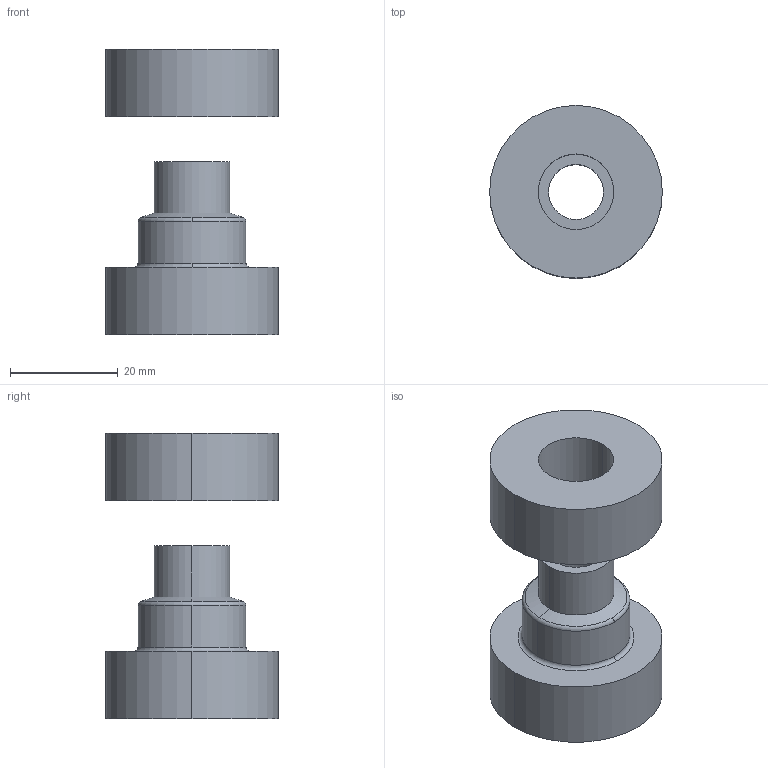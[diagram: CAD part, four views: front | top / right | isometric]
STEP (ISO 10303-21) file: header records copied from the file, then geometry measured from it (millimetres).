
FILE_DESCRIPTION(('STEP AP214'),'1');
FILE_NAME('C:/Transfer Dokumente/UMount_6001x_160226.stp','2026-02-16T11:53:52',(' '),(' '),'Spatial InterOp 3D',' ',' ');
FILE_SCHEMA(('automotive_design'));
Length unit declared in the file: millimetre
Products named in the file (2): 1; 2
Bounding box: 32 x 32 x 52.83 mm (x, y, z)
Volume: 20090.7 mm3; surface area: 7796.9 mm2
Topology: 2 solids, 2 shells, 23 faces, 53 edges, 35 vertices
Faces by surface type: cylinder 12, plane 5, torus 4, cone 2
Entity records: 716 total; most frequent: DIRECTION 142, CARTESIAN_POINT 113, ORIENTED_EDGE 106, AXIS2_PLACEMENT_3D 64, EDGE_CURVE 53, CIRCLE 39, VERTEX_POINT 35, EDGE_LOOP 28
